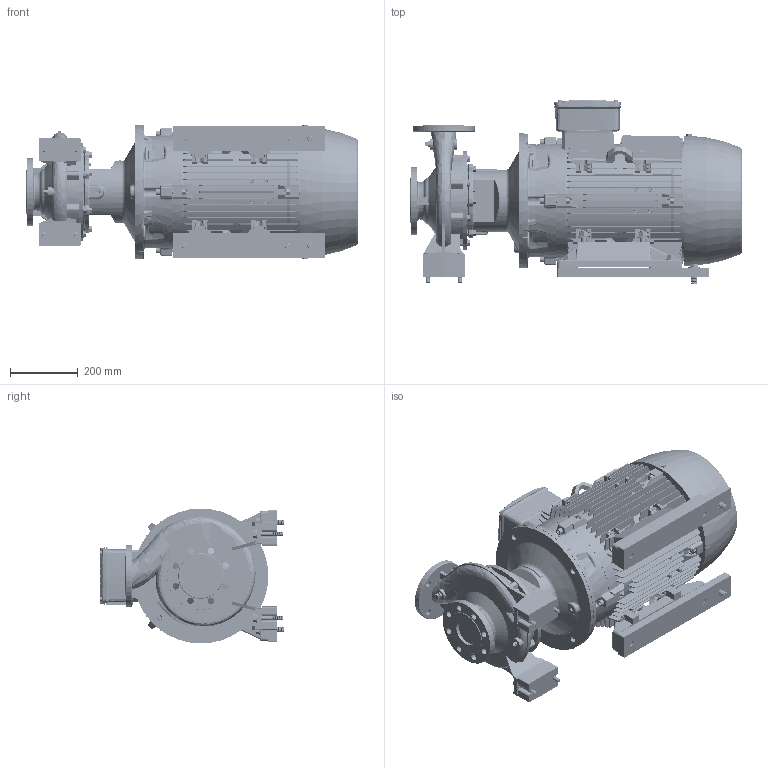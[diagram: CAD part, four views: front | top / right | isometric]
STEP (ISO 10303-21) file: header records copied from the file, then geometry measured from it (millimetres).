
FILE_DESCRIPTION (( 'STEP AP214' ), '1' );
FILE_NAME ('GSD2 65-200_30.0 & 37.0_(200ML)_W21.STEP', '2026-07-08T06:42:00', ( '' ), ( '' ), 'SwSTEP 2.0', 'SolidWorks 2024', '' );
FILE_SCHEMA (( 'AUTOMOTIVE_DESIGN' ));
Length unit declared in the file: millimetre
Products named in the file (12): Parametric bolt and washer_SFT-A319B; CGS11-5311_2_3_4_5_CGS11-5311; 200M_L ALIE3_W21T_B35; 80x25 - CGSDA-5271; Parametric Flat Washer_M16; Parametric bolt_SFT-A359B; 65-200-200M_L_ﾃﾞﾌｫﾙﾄ; Parametric bolt and washer_SFT-A359B; Parametric bolt_SFT-A319B; GSD2  65-200_30.0 & 37.0_(200ML)_W21; CGS11-5311_2_3_4_5_CGS11-5312; Parametric Flat Washer_M12
Assembly tree (22 placements, depth 3):
  GSD2  65-200_30.0 & 37.0_(200ML)_W21
    65-200-200M_L_ﾃﾞﾌｫﾙﾄ
    CGS11-5311_2_3_4_5_CGS11-5312  x2
    CGS11-5311_2_3_4_5_CGS11-5311  x2
    80x25 - CGSDA-5271  x2
    Parametric bolt and washer_SFT-A319B  x4
      Parametric bolt_SFT-A319B
      Parametric Flat Washer_M12
    Parametric bolt and washer_SFT-A359B  x6
      Parametric bolt_SFT-A359B
      Parametric Flat Washer_M16
    200M_L ALIE3_W21T_B35
Bounding box: 983.8 x 546.5 x 400 mm (x, y, z)
Volume: 80539329.8 mm3; surface area: 4328717.5 mm2
Topology: 49 solids, 59 shells, 7491 faces, 19375 edges, 12430 vertices
Faces by surface type: plane 4306, cylinder 1412, bspline 970, cone 585, torus 214, sphere 4
Entity records: 275529 total; most frequent: CARTESIAN_POINT 117107, ORIENTED_EDGE 35342, DIRECTION 28649, EDGE_CURVE 17671, VERTEX_POINT 11388, VECTOR 10849, LINE 10849, AXIS2_PLACEMENT_3D 8900
